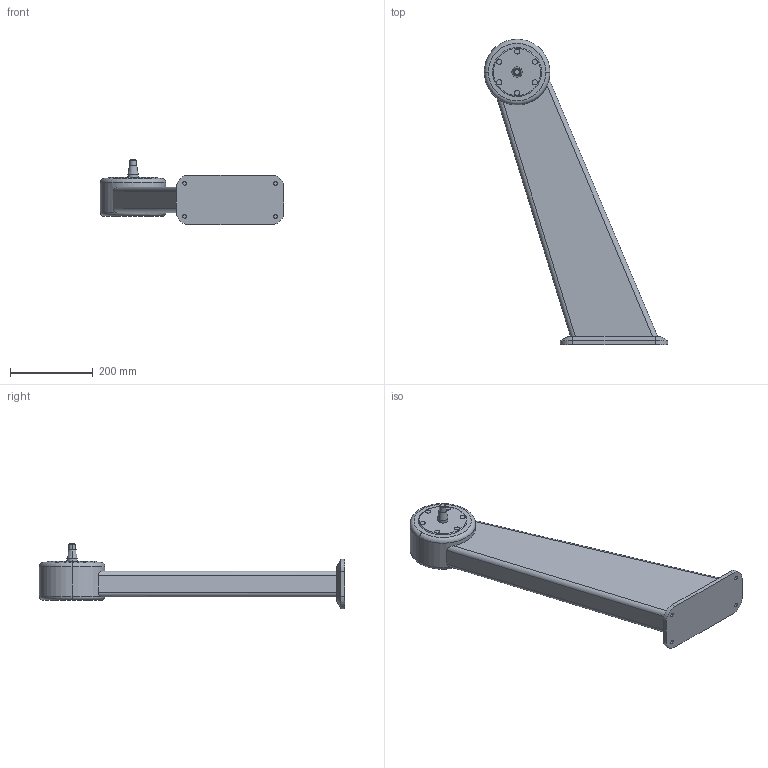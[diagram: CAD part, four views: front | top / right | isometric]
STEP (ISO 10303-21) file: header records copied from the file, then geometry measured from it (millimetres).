
FILE_DESCRIPTION (( 'STEP AP214' ), '1' );
FILE_NAME ('WP700_H660_+20.STEP', '2014-08-14T09:49:36', ( '' ), ( '' ), 'SwSTEP 2.0', 'SolidWorks 2014', '' );
FILE_SCHEMA (( 'AUTOMOTIVE_DESIGN' ));
Length unit declared in the file: millimetre
Products named in the file (1): WP700_H660_+20
Bounding box: 444.35 x 739.5 x 158.3 mm (x, y, z)
Volume: 8732575.6 mm3; surface area: 405370.1 mm2
Topology: 1 solids, 1 shells, 79 faces, 171 edges, 108 vertices
Faces by surface type: cylinder 36, plane 29, cone 8, torus 6
Entity records: 2294 total; most frequent: CARTESIAN_POINT 475, DIRECTION 408, ORIENTED_EDGE 342, EDGE_CURVE 171, AXIS2_PLACEMENT_3D 167, VERTEX_POINT 108, EDGE_LOOP 93, CIRCLE 87
